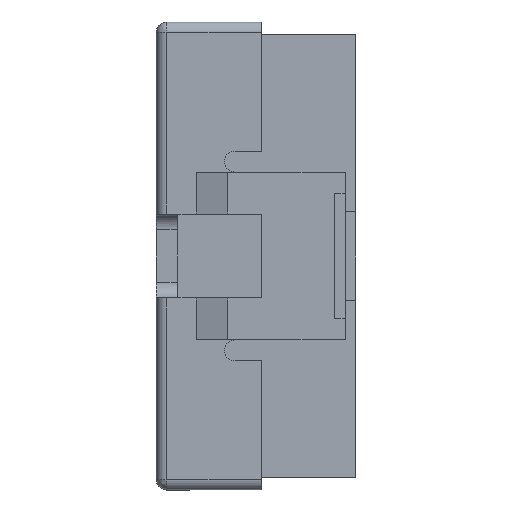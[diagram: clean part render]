
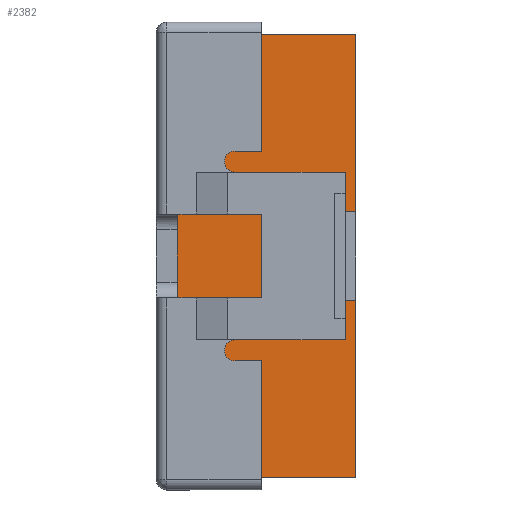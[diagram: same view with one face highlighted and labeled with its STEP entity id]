
A CAD part, left-side view. The second image highlights one B-rep face of the part: STEP entity #2382.
In plain terms, the highlighted planar face has unit normal (-1, 0, 0).
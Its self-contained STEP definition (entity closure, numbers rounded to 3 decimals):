
#369 = DIRECTION ( 'NONE',  ( 0., 0., 1. ) ) ;
#532 = CARTESIAN_POINT ( 'NONE',  ( -20., 0., -21.1 ) ) ;
#669 = VECTOR ( 'NONE', #8343, 1000. ) ;
#807 = LINE ( 'NONE', #3817, #3353 ) ;
#985 = CARTESIAN_POINT ( 'NONE',  ( -20., -17., 0. ) ) ;
#1205 = CARTESIAN_POINT ( 'NONE',  ( -20., -17., -21.1 ) ) ;
#1305 = EDGE_CURVE ( 'NONE', #3262, #2393, #2338, .T. ) ;
#1317 = VERTEX_POINT ( 'NONE', #8392 ) ;
#1511 = DIRECTION ( 'NONE',  ( 0., 1., 0. ) ) ;
#1516 = VECTOR ( 'NONE', #369, 1000. ) ;
#1908 = DIRECTION ( 'NONE',  ( 0., 0., -1. ) ) ;
#1922 = ORIENTED_EDGE ( 'NONE', *, *, #5088, .T. ) ;
#1960 = EDGE_CURVE ( 'NONE', #3262, #9586, #5646, .T. ) ;
#2338 = LINE ( 'NONE', #5333, #669 ) ;
#2382 = ADVANCED_FACE ( 'NONE', ( #4941 ), #7955, .T. ) ;
#2393 = VERTEX_POINT ( 'NONE', #9470 ) ;
#2421 = DIRECTION ( 'NONE',  ( 0., -1., 0. ) ) ;
#2593 = VERTEX_POINT ( 'NONE', #5323 ) ;
#2777 = VERTEX_POINT ( 'NONE', #4975 ) ;
#3086 = EDGE_CURVE ( 'NONE', #2393, #6851, #807, .T. ) ;
#3262 = VERTEX_POINT ( 'NONE', #7910 ) ;
#3353 = VECTOR ( 'NONE', #6824, 1000. ) ;
#3542 = LINE ( 'NONE', #6551, #6332 ) ;
#3796 = ORIENTED_EDGE ( 'NONE', *, *, #6706, .F. ) ;
#3817 = CARTESIAN_POINT ( 'NONE',  ( -20., 0., 0. ) ) ;
#3990 = DIRECTION ( 'NONE',  ( 0., 0., -1. ) ) ;
#4020 = VECTOR ( 'NONE', #1908, 1000. ) ;
#4118 = LINE ( 'NONE', #7129, #1516 ) ;
#4178 = EDGE_CURVE ( 'NONE', #1317, #6851, #3542, .T. ) ;
#4203 = DIRECTION ( 'NONE',  ( -1., 0., 0. ) ) ;
#4512 = CARTESIAN_POINT ( 'NONE',  ( -20., -17., 4.2 ) ) ;
#4941 = FACE_OUTER_BOUND ( 'NONE', #8251, .T. ) ;
#4975 = CARTESIAN_POINT ( 'NONE',  ( -20., -17., -4.2 ) ) ;
#5088 = EDGE_CURVE ( 'NONE', #2777, #6457, #5246, .T. ) ;
#5246 = LINE ( 'NONE', #8255, #9285 ) ;
#5301 = EDGE_CURVE ( 'NONE', #6457, #2593, #4118, .T. ) ;
#5315 = VECTOR ( 'NONE', #3990, 1000. ) ;
#5323 = CARTESIAN_POINT ( 'NONE',  ( -20., -14.5, 4.2 ) ) ;
#5333 = CARTESIAN_POINT ( 'NONE',  ( -20., -8.5, 21.1 ) ) ;
#5646 = LINE ( 'NONE', #8655, #4020 ) ;
#6150 = LINE ( 'NONE', #9153, #7118 ) ;
#6332 = VECTOR ( 'NONE', #9554, 1000. ) ;
#6457 = VERTEX_POINT ( 'NONE', #8042 ) ;
#6551 = CARTESIAN_POINT ( 'NONE',  ( -20., -8.5, -21.1 ) ) ;
#6706 = EDGE_CURVE ( 'NONE', #2777, #1317, #7745, .T. ) ;
#6824 = DIRECTION ( 'NONE',  ( 0., 0., -1. ) ) ;
#6851 = VERTEX_POINT ( 'NONE', #532 ) ;
#7074 = ORIENTED_EDGE ( 'NONE', *, *, #5301, .T. ) ;
#7118 = VECTOR ( 'NONE', #2421, 1000. ) ;
#7127 = AXIS2_PLACEMENT_3D ( 'NONE', #1205, #4203, #7209 ) ;
#7129 = CARTESIAN_POINT ( 'NONE',  ( -20., -14.5, 0. ) ) ;
#7209 = DIRECTION ( 'NONE',  ( 0., 0., 1. ) ) ;
#7248 = ORIENTED_EDGE ( 'NONE', *, *, #3086, .T. ) ;
#7478 = ORIENTED_EDGE ( 'NONE', *, *, #1305, .T. ) ;
#7745 = LINE ( 'NONE', #985, #5315 ) ;
#7910 = CARTESIAN_POINT ( 'NONE',  ( -20., -17., 21.1 ) ) ;
#7955 = PLANE ( 'NONE',  #7127 ) ;
#7963 = ORIENTED_EDGE ( 'NONE', *, *, #1960, .F. ) ;
#8042 = CARTESIAN_POINT ( 'NONE',  ( -20., -14.5, -4.2 ) ) ;
#8170 = EDGE_CURVE ( 'NONE', #2593, #9586, #6150, .T. ) ;
#8251 = EDGE_LOOP ( 'NONE', ( #1922, #7074, #8431, #7963, #7478, #7248, #9084, #3796 ) ) ;
#8255 = CARTESIAN_POINT ( 'NONE',  ( -20., -8.5, -4.2 ) ) ;
#8343 = DIRECTION ( 'NONE',  ( 0., 1., 0. ) ) ;
#8392 = CARTESIAN_POINT ( 'NONE',  ( -20., -17., -21.1 ) ) ;
#8431 = ORIENTED_EDGE ( 'NONE', *, *, #8170, .T. ) ;
#8655 = CARTESIAN_POINT ( 'NONE',  ( -20., -17., 0. ) ) ;
#9084 = ORIENTED_EDGE ( 'NONE', *, *, #4178, .F. ) ;
#9153 = CARTESIAN_POINT ( 'NONE',  ( -20., -8.5, 4.2 ) ) ;
#9285 = VECTOR ( 'NONE', #1511, 1000. ) ;
#9470 = CARTESIAN_POINT ( 'NONE',  ( -20., 0., 21.1 ) ) ;
#9554 = DIRECTION ( 'NONE',  ( 0., 1., 0. ) ) ;
#9586 = VERTEX_POINT ( 'NONE', #4512 ) ;
